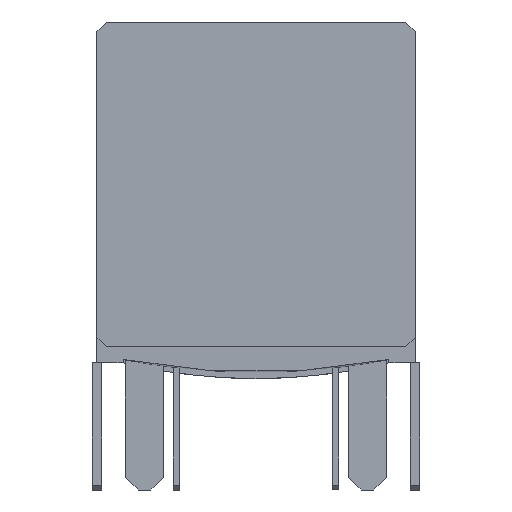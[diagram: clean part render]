
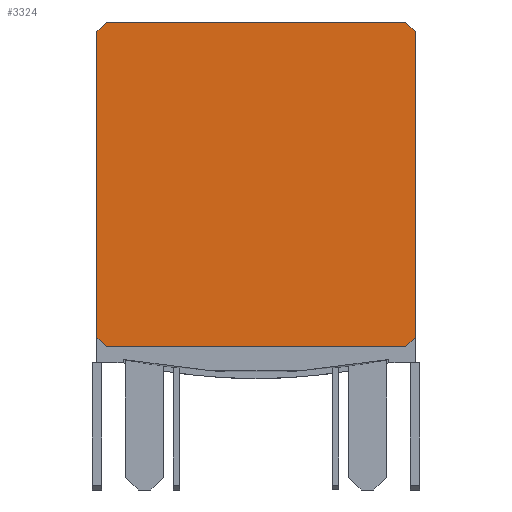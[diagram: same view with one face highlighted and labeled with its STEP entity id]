
A CAD part, front view. The second image highlights one B-rep face of the part: STEP entity #3324.
In plain terms, the highlighted planar face has unit normal (0, -1, 0).
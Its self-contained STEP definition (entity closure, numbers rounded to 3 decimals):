
#3035 = CARTESIAN_POINT ( 'NONE',  ( -4.698, -8.1, 11.7 ) ) ;
#3126 = VERTEX_POINT ( 'NONE', #3035 ) ;
#3297 = VERTEX_POINT ( 'NONE', #4174 ) ;
#3318 = EDGE_LOOP ( 'NONE', ( #3325, #3342, #3336, #3350, #3406, #3361, #3376, #3415, #3337, #3338 ) ) ;
#3324 = ADVANCED_FACE ( 'NONE', ( #4135 ), #4055, .F. ) ;
#3325 = ORIENTED_EDGE ( 'NONE', *, *, #3340, .F. ) ;
#3336 = ORIENTED_EDGE ( 'NONE', *, *, #3752, .T. ) ;
#3337 = ORIENTED_EDGE ( 'NONE', *, *, #6642, .F. ) ;
#3338 = ORIENTED_EDGE ( 'NONE', *, *, #3429, .T. ) ;
#3339 = EDGE_CURVE ( 'NONE', #3126, #3726, #3976, .T. ) ;
#3340 = EDGE_CURVE ( 'NONE', #3126, #3297, #3972, .T. ) ;
#3342 = ORIENTED_EDGE ( 'NONE', *, *, #3339, .T. ) ;
#3350 = ORIENTED_EDGE ( 'NONE', *, *, #3724, .T. ) ;
#3361 = ORIENTED_EDGE ( 'NONE', *, *, #3553, .T. ) ;
#3376 = ORIENTED_EDGE ( 'NONE', *, *, #3771, .T. ) ;
#3406 = ORIENTED_EDGE ( 'NONE', *, *, #3736, .T. ) ;
#3415 = ORIENTED_EDGE ( 'NONE', *, *, #6540, .T. ) ;
#3429 = EDGE_CURVE ( 'NONE', #6729, #3297, #4301, .T. ) ;
#3548 = VERTEX_POINT ( 'NONE', #5008 ) ;
#3553 = EDGE_CURVE ( 'NONE', #3728, #3548, #4999, .T. ) ;
#3724 = EDGE_CURVE ( 'NONE', #3733, #3742, #5433, .T. ) ;
#3726 = VERTEX_POINT ( 'NONE', #5492 ) ;
#3728 = VERTEX_POINT ( 'NONE', #5491 ) ;
#3733 = VERTEX_POINT ( 'NONE', #5426 ) ;
#3736 = EDGE_CURVE ( 'NONE', #3742, #3728, #5417, .T. ) ;
#3742 = VERTEX_POINT ( 'NONE', #5488 ) ;
#3752 = EDGE_CURVE ( 'NONE', #3726, #3733, #5548, .T. ) ;
#3771 = EDGE_CURVE ( 'NONE', #3548, #6518, #5571, .T. ) ;
#3969 = DIRECTION ( 'NONE',  ( 1., 0., 0. ) ) ;
#3970 = VECTOR ( 'NONE', #3969, 1000. ) ;
#3971 = CARTESIAN_POINT ( 'NONE',  ( -4.998, -8.1, 11.7 ) ) ;
#3972 = LINE ( 'NONE', #3971, #3970 ) ;
#3973 = DIRECTION ( 'NONE',  ( -0.707, 0., -0.707 ) ) ;
#3974 = VECTOR ( 'NONE', #3973, 1000. ) ;
#3975 = CARTESIAN_POINT ( 'NONE',  ( -4.698, -8.1, 11.7 ) ) ;
#3976 = LINE ( 'NONE', #3975, #3974 ) ;
#4051 = DIRECTION ( 'NONE',  ( 0., 0., 1. ) ) ;
#4052 = DIRECTION ( 'NONE',  ( 0., 1., 0. ) ) ;
#4053 = CARTESIAN_POINT ( 'NONE',  ( 0.002, -8.1, 16.2 ) ) ;
#4054 = AXIS2_PLACEMENT_3D ( 'NONE', #4053, #4052, #4051 ) ;
#4055 = PLANE ( 'NONE',  #4054 ) ;
#4135 = FACE_OUTER_BOUND ( 'NONE', #3318, .T. ) ;
#4174 = CARTESIAN_POINT ( 'NONE',  ( 4.7, -8.1, 11.7 ) ) ;
#4298 = DIRECTION ( 'NONE',  ( -0.707, 0., 0.707 ) ) ;
#4299 = VECTOR ( 'NONE', #4298, 1000. ) ;
#4300 = CARTESIAN_POINT ( 'NONE',  ( 4.7, -8.1, 11.7 ) ) ;
#4301 = LINE ( 'NONE', #4300, #4299 ) ;
#4996 = DIRECTION ( 'NONE',  ( 0.707, 0., 0.707 ) ) ;
#4997 = VECTOR ( 'NONE', #4996, 1000. ) ;
#4998 = CARTESIAN_POINT ( 'NONE',  ( 4.702, -8.1, 1.5 ) ) ;
#4999 = LINE ( 'NONE', #4998, #4997 ) ;
#5008 = CARTESIAN_POINT ( 'NONE',  ( 5.002, -8.1, 1.8 ) ) ;
#5417 = LINE ( 'NONE', #5470, #5469 ) ;
#5426 = CARTESIAN_POINT ( 'NONE',  ( -4.998, -8.1, 1.8 ) ) ;
#5432 = CARTESIAN_POINT ( 'NONE',  ( -4.998, -8.1, 1.8 ) ) ;
#5433 = LINE ( 'NONE', #5432, #5479 ) ;
#5468 = DIRECTION ( 'NONE',  ( 1., 0., 0. ) ) ;
#5469 = VECTOR ( 'NONE', #5468, 1000. ) ;
#5470 = CARTESIAN_POINT ( 'NONE',  ( -4.698, -8.1, 1.5 ) ) ;
#5478 = DIRECTION ( 'NONE',  ( 0.707, 0., -0.707 ) ) ;
#5479 = VECTOR ( 'NONE', #5478, 1000. ) ;
#5488 = CARTESIAN_POINT ( 'NONE',  ( -4.698, -8.1, 1.5 ) ) ;
#5491 = CARTESIAN_POINT ( 'NONE',  ( 4.702, -8.1, 1.5 ) ) ;
#5492 = CARTESIAN_POINT ( 'NONE',  ( -4.998, -8.1, 11.4 ) ) ;
#5521 = VECTOR ( 'NONE', #5545, 1000. ) ;
#5545 = DIRECTION ( 'NONE',  ( 0., 0., -1. ) ) ;
#5547 = CARTESIAN_POINT ( 'NONE',  ( -4.998, -8.1, 11.2 ) ) ;
#5548 = LINE ( 'NONE', #5547, #5521 ) ;
#5568 = DIRECTION ( 'NONE',  ( 0., 0., 1. ) ) ;
#5569 = VECTOR ( 'NONE', #5568, 1000. ) ;
#5570 = CARTESIAN_POINT ( 'NONE',  ( 5.002, -8.1, 1.8 ) ) ;
#5571 = LINE ( 'NONE', #5570, #5569 ) ;
#6518 = VERTEX_POINT ( 'NONE', #7916 ) ;
#6539 = VERTEX_POINT ( 'NONE', #7947 ) ;
#6540 = EDGE_CURVE ( 'NONE', #6518, #6539, #8003, .T. ) ;
#6642 = EDGE_CURVE ( 'NONE', #6729, #6539, #6870, .T. ) ;
#6729 = VERTEX_POINT ( 'NONE', #7050 ) ;
#6841 = VECTOR ( 'NONE', #6883, 1000. ) ;
#6842 = CARTESIAN_POINT ( 'NONE',  ( 5., -8.1, 11.7 ) ) ;
#6870 = LINE ( 'NONE', #6842, #6841 ) ;
#6883 = DIRECTION ( 'NONE',  ( 0., 0., -1. ) ) ;
#7050 = CARTESIAN_POINT ( 'NONE',  ( 5., -8.1, 11.4 ) ) ;
#7916 = CARTESIAN_POINT ( 'NONE',  ( 5.002, -8.1, 11.2 ) ) ;
#7947 = CARTESIAN_POINT ( 'NONE',  ( 5., -8.1, 11.202 ) ) ;
#8000 = DIRECTION ( 'NONE',  ( -0.707, 0., 0.707 ) ) ;
#8001 = VECTOR ( 'NONE', #8000, 1000. ) ;
#8002 = CARTESIAN_POINT ( 'NONE',  ( 5.002, -8.1, 11.2 ) ) ;
#8003 = LINE ( 'NONE', #8002, #8001 ) ;
